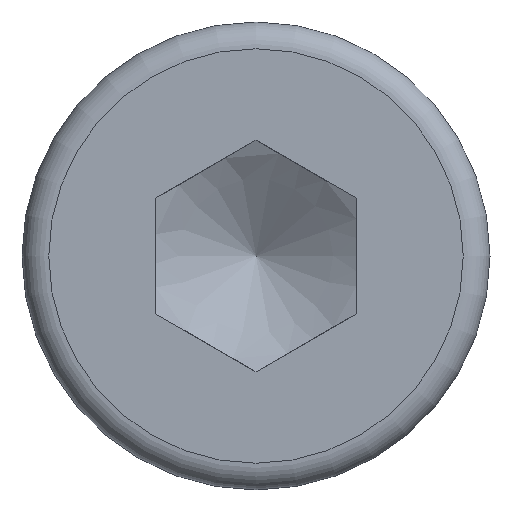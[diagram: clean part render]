
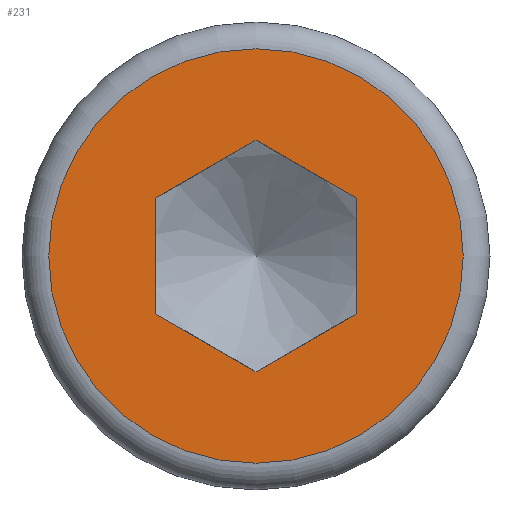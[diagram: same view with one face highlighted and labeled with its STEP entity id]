
A CAD part, left-side view. The second image highlights one B-rep face of the part: STEP entity #231.
In plain terms, the highlighted planar face has unit normal (-1, 0, 0).
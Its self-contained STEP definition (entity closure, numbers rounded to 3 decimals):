
#22=FACE_BOUND('',#55,.T.);
#26=PLANE('',#276);
#40=FACE_OUTER_BOUND('',#54,.T.);
#54=EDGE_LOOP('',(#177));
#55=EDGE_LOOP('',(#178,#179,#180,#181,#182,#183));
#68=LINE('',#376,#84);
#69=LINE('',#378,#85);
#70=LINE('',#380,#86);
#71=LINE('',#382,#87);
#72=LINE('',#384,#88);
#73=LINE('',#385,#89);
#84=VECTOR('',#317,10.);
#85=VECTOR('',#318,10.);
#86=VECTOR('',#319,10.);
#87=VECTOR('',#320,10.);
#88=VECTOR('',#321,10.);
#89=VECTOR('',#322,10.);
#105=CIRCLE('',#275,3.1);
#113=VERTEX_POINT('',#370);
#114=VERTEX_POINT('',#374);
#115=VERTEX_POINT('',#375);
#116=VERTEX_POINT('',#377);
#117=VERTEX_POINT('',#379);
#118=VERTEX_POINT('',#381);
#119=VERTEX_POINT('',#383);
#138=EDGE_CURVE('',#113,#113,#105,.T.);
#139=EDGE_CURVE('',#114,#115,#68,.T.);
#140=EDGE_CURVE('',#115,#116,#69,.T.);
#141=EDGE_CURVE('',#116,#117,#70,.T.);
#142=EDGE_CURVE('',#117,#118,#71,.T.);
#143=EDGE_CURVE('',#118,#119,#72,.T.);
#144=EDGE_CURVE('',#119,#114,#73,.T.);
#177=ORIENTED_EDGE('',*,*,#138,.F.);
#178=ORIENTED_EDGE('',*,*,#139,.T.);
#179=ORIENTED_EDGE('',*,*,#140,.T.);
#180=ORIENTED_EDGE('',*,*,#141,.T.);
#181=ORIENTED_EDGE('',*,*,#142,.T.);
#182=ORIENTED_EDGE('',*,*,#143,.T.);
#183=ORIENTED_EDGE('',*,*,#144,.T.);
#231=ADVANCED_FACE('',(#40,#22),#26,.T.);
#275=AXIS2_PLACEMENT_3D('',#372,#313,#314);
#276=AXIS2_PLACEMENT_3D('',#373,#315,#316);
#313=DIRECTION('center_axis',(1.,0.,0.));
#314=DIRECTION('ref_axis',(0.,-1.,0.));
#315=DIRECTION('center_axis',(-1.,0.,0.));
#316=DIRECTION('ref_axis',(0.,0.,1.));
#317=DIRECTION('',(0.,0.,1.));
#318=DIRECTION('',(0.,-0.866,0.5));
#319=DIRECTION('',(0.,-0.866,-0.5));
#320=DIRECTION('',(0.,0.,-1.));
#321=DIRECTION('',(0.,0.866,-0.5));
#322=DIRECTION('',(0.,0.866,0.5));
#370=CARTESIAN_POINT('',(-4.,0.,3.1));
#372=CARTESIAN_POINT('Origin',(-4.,0.,
0.));
#373=CARTESIAN_POINT('Origin',(-4.,2.616,0.));
#374=CARTESIAN_POINT('',(-4.,1.5,-0.866));
#375=CARTESIAN_POINT('',(-4.,1.5,0.866));
#376=CARTESIAN_POINT('',(-4.,1.5,0.433));
#377=CARTESIAN_POINT('',(-4.,0.,1.732));
#378=CARTESIAN_POINT('',(-4.,0.375,1.516));
#379=CARTESIAN_POINT('',(-4.,-1.5,0.866));
#380=CARTESIAN_POINT('',(-4.,-1.125,1.083));
#381=CARTESIAN_POINT('',(-4.,-1.5,-0.866));
#382=CARTESIAN_POINT('',(-4.,-1.5,-0.433));
#383=CARTESIAN_POINT('',(-4.,0.,-1.732));
#384=CARTESIAN_POINT('',(-4.,-0.375,-1.516));
#385=CARTESIAN_POINT('',(-4.,1.125,-1.083));
